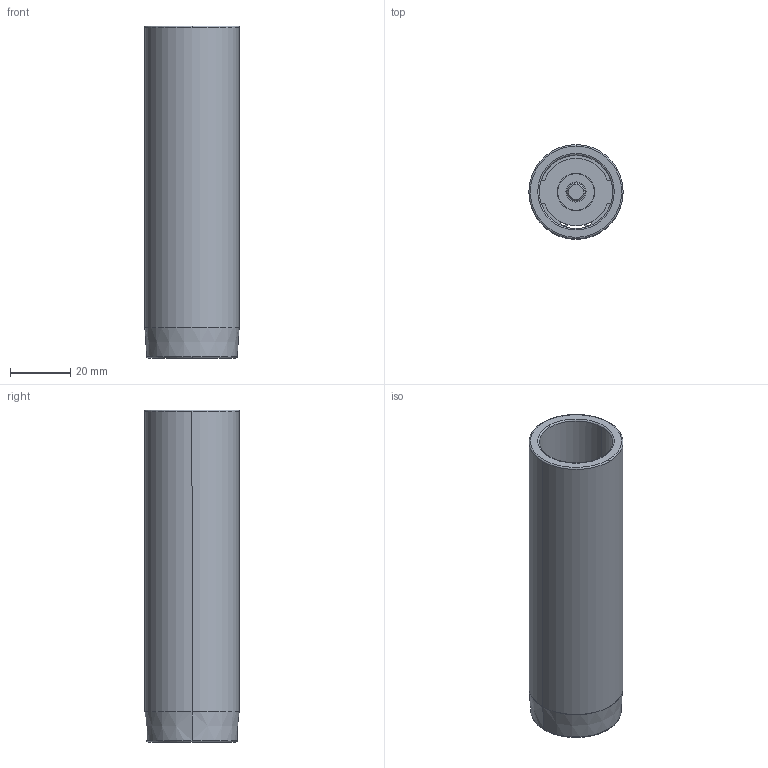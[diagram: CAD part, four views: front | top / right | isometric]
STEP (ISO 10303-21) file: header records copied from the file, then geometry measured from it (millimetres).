
FILE_DESCRIPTION((''),'2;1');
FILE_NAME('C12_024_110.stp','2009-01-28T08:31:02',(''),(''),'Mechanical Desktop 2009','Mechanical Desktop 2009',', , ');
FILE_SCHEMA(('CONFIG_CONTROL_DESIGN'));
Length unit declared in the file: millimetre
Products named in the file (2): Product; blmdl1
Assembly tree (1 placements, depth 2):
  Product
    blmdl1
Bounding box: 31.25 x 31.25 x 110 mm (x, y, z)
Volume: 33593.1 mm3; surface area: 22811.1 mm2
Topology: 5 solids, 5 shells, 79 faces, 200 edges, 134 vertices
Faces by surface type: cylinder 34, plane 29, torus 10, cone 6
Entity records: 2585 total; most frequent: DIRECTION 480, CARTESIAN_POINT 435, ORIENTED_EDGE 400, AXIS2_PLACEMENT_3D 203, EDGE_CURVE 200, VERTEX_POINT 134, CIRCLE 122, EDGE_LOOP 92
